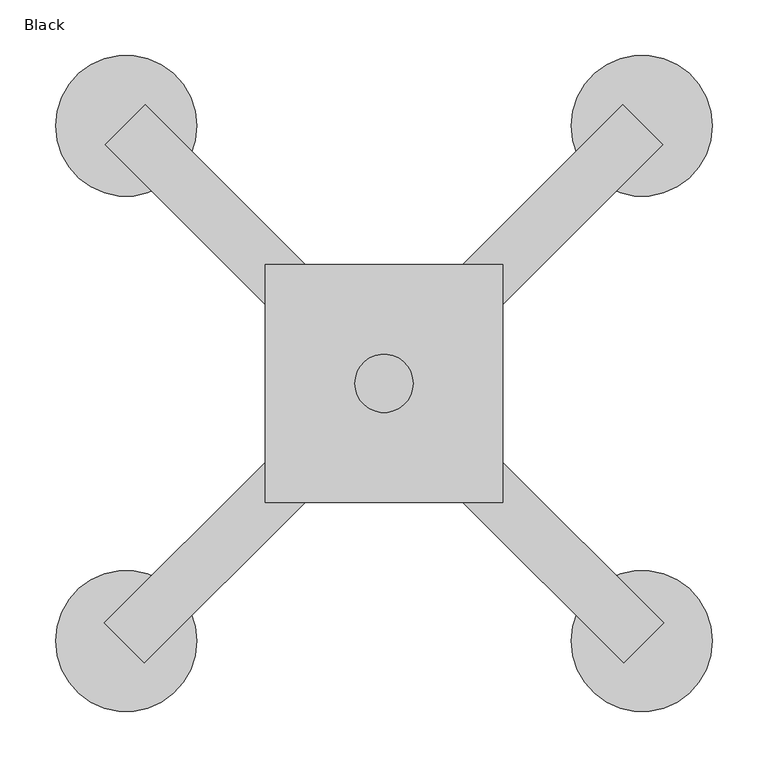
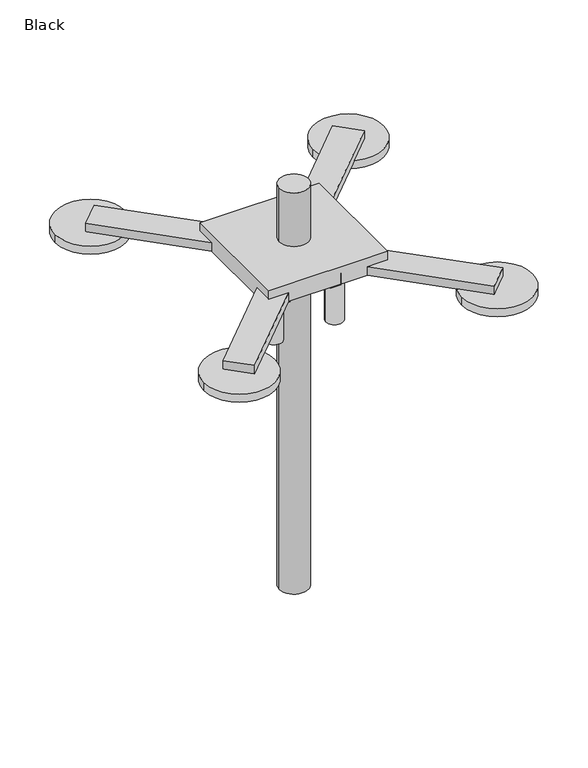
"""IFC4 building model written with IfcOpenShell, lengths in millimetres: proxy geometry, Vibration_Isolator-Ceiling-Chief-Large_Venue : Black."""

from ifc_helpers import new_model, si_unit, point, frame, frame_2d, origin, origin_with_axes, origin_2d, place, context, project, spatial, polyline, circle_curve, trimmed, segment, composite_curve, outline, extrude, source, transform, mapped, element, save
from ifc_brep_helpers import plane_surface, cylinder_surface, advanced_brep


def black_d4b0cc76(model_context):
    return source(origin(), model_context, "Body", "SolidModel", [
        extrude(outline(composite_curve([segment(trimmed(circle_curve(frame_2d((-54.61, -31.75)), 15.748), [point((-38.862, -31.75))], [point((-70.358, -31.75))], False, "CARTESIAN"), True, "CONTINUOUS"), segment(trimmed(circle_curve(frame_2d((-54.61, -31.75)), 15.748), [point((-70.358, -31.75))], [point((-38.862, -31.75))], False, "CARTESIAN"), True, "CONTINUOUS")], self_intersect=False)), frame((0.0, 0.0, 504.5964), z_axis=(0.0, 0.0, 1.0), x_axis=(1.0, 0.0, 0.0)), (0.0, 0.0, 1.0), 76.7),
        extrude(outline(composite_curve([segment(trimmed(circle_curve(frame_2d((54.61, -31.75)), 15.748), [point((70.358, -31.75))], [point((38.862, -31.75))], False, "CARTESIAN"), True, "CONTINUOUS"), segment(trimmed(circle_curve(frame_2d((54.61, -31.75)), 15.748), [point((38.862, -31.75))], [point((70.358, -31.75))], False, "CARTESIAN"), True, "CONTINUOUS")], self_intersect=False)), frame((0.0, 0.0, 504.5964), z_axis=(0.0, 0.0, 1.0), x_axis=(1.0, 0.0, 0.0)), (0.0, 0.0, 1.0), 76.7),
        extrude(outline(composite_curve([segment(trimmed(circle_curve(frame_2d((0.0, 62.992)), 15.748), [point((15.748, 62.992))], [point((-15.748, 62.992))], False, "CARTESIAN"), True, "CONTINUOUS"), segment(trimmed(circle_curve(frame_2d((0.0, 62.992)), 15.748), [point((-15.748, 62.992))], [point((15.748, 62.992))], False, "CARTESIAN"), True, "CONTINUOUS")], self_intersect=False)), frame((0.0, 0.0, 504.5964), z_axis=(0.0, 0.0, 1.0), x_axis=(1.0, 0.0, 0.0)), (0.0, 0.0, 1.0), 76.7),
        extrude(outline(polyline([(50.8142512, -6.244031), (62.4871689, -6.2876395), (72.0757117, -22.9848674), (55.6338464, -51.2648756), (36.379434, -51.1929436), (30.6362371, -41.1918965), (-30.6362371, -41.1918965), (-36.379434, -51.1929436), (-55.6338464, -51.2648756), (-72.0757117, -22.9848674), (-62.4871689, -6.2876395), (-50.8142512, -6.244031), (-20.1646255, 46.9295057), (-25.9716199, 57.0039659), (-16.3561441, 73.6856983), (16.3561441, 73.6856983), (25.9716199, 57.0039659), (20.1646255, 46.9295057), (50.8142512, -6.244031)]), holes=[composite_curve([segment(trimmed(circle_curve(origin_2d(), 26.162), [point((26.162, 0.0))], [point((-26.162, 0.0))], True, "CARTESIAN"), True, "CONTINUOUS"), segment(trimmed(circle_curve(origin_2d(), 26.162), [point((-26.162, 0.0))], [point((26.162, 0.0))], True, "CARTESIAN"), True, "CONTINUOUS")], self_intersect=False)]), frame((0.0, 0.0, 581.2964), z_axis=(0.0, 0.0, 1.0), x_axis=(1.0, 0.0, 0.0)), (0.0, 0.0, 1.0), 11.0706),
        extrude(outline(composite_curve([segment(trimmed(circle_curve(frame_2d((54.61, -31.75)), 8.89), [point((63.5, -31.75))], [point((45.72, -31.75))], False, "CARTESIAN"), True, "CONTINUOUS"), segment(trimmed(circle_curve(frame_2d((54.61, -31.75)), 8.89), [point((45.72, -31.75))], [point((63.5, -31.75))], False, "CARTESIAN"), True, "CONTINUOUS")], self_intersect=False)), frame((0.0, 0.0, 592.367), z_axis=(0.0, 0.0, 1.0), x_axis=(1.0, 0.0, 0.0)), (0.0, 0.0, 1.0), 35.433),
        extrude(outline(composite_curve([segment(trimmed(circle_curve(frame_2d((-54.61, -31.75)), 8.89), [point((-45.72, -31.75))], [point((-63.5, -31.75))], False, "CARTESIAN"), True, "CONTINUOUS"), segment(trimmed(circle_curve(frame_2d((-54.61, -31.75)), 8.89), [point((-63.5, -31.75))], [point((-45.72, -31.75))], False, "CARTESIAN"), True, "CONTINUOUS")], self_intersect=False)), frame((0.0, 0.0, 592.367), z_axis=(0.0, 0.0, 1.0), x_axis=(1.0, 0.0, 0.0)), (0.0, 0.0, 1.0), 35.433),
        extrude(outline(composite_curve([segment(trimmed(circle_curve(frame_2d((0.0, 62.992)), 8.89), [point((8.89, 62.992))], [point((-8.89, 62.992))], False, "CARTESIAN"), True, "CONTINUOUS"), segment(trimmed(circle_curve(frame_2d((0.0, 62.992)), 8.89), [point((-8.89, 62.992))], [point((8.89, 62.992))], False, "CARTESIAN"), True, "CONTINUOUS")], self_intersect=False)), frame((0.0, 0.0, 592.367), z_axis=(0.0, 0.0, 1.0), x_axis=(1.0, 0.0, 0.0)), (0.0, 0.0, 1.0), 35.433),
        advanced_brep(
        [(266.9349858, -231.902, 612.56), (196.8690142, -231.902, 612.56), (231.902, -231.902, 612.56), (266.9349858, -231.902, 608.3804289), (196.8690142, -231.902, 608.3804289), (243.0084026, -231.902, 608.3804289), (220.7955974, -231.902, 608.3804289), (243.0084026, -231.902, 599.86), (220.7955974, -231.902, 599.86), (231.902, -231.902, 599.86)],
        [
            (0, 1, circle_curve(frame((231.902, -231.902, 612.56), z_axis=(0.0, 0.0, 1.0), x_axis=(-1.0, 0.0, 0.0)), 35.0329858)),
            (1, 2),
            (2, 0),
            (1, 0, circle_curve(frame((231.902, -231.902, 612.56), z_axis=(0.0, 0.0, 1.0), x_axis=(-1.0, 0.0, 0.0)), 35.0329858)),
            (3, 4, circle_curve(frame((231.902, -231.902, 608.3804289), z_axis=(0.0, 0.0, 1.0), x_axis=(-1.0, 0.0, 0.0)), 35.0329858)),
            (4, 1),
            (0, 3),
            (4, 3, circle_curve(frame((231.902, -231.902, 608.3804289), z_axis=(0.0, 0.0, 1.0), x_axis=(-1.0, 0.0, 0.0)), 35.0329858)),
            (5, 6, circle_curve(frame((231.902, -231.902, 608.3804289), z_axis=(0.0, 0.0, 1.0), x_axis=(-1.0, 0.0, 0.0)), 11.1064026)),
            (6, 4),
            (3, 5),
            (6, 5, circle_curve(frame((231.902, -231.902, 608.3804289), z_axis=(0.0, 0.0, 1.0), x_axis=(-1.0, 0.0, 0.0)), 11.1064026)),
            (7, 8, circle_curve(frame((231.902, -231.902, 599.86), z_axis=(0.0, 0.0, 1.0), x_axis=(-1.0, 0.0, 0.0)), 11.1064026)),
            (8, 6),
            (5, 7),
            (8, 7, circle_curve(frame((231.902, -231.902, 599.86), z_axis=(0.0, 0.0, 1.0), x_axis=(-1.0, 0.0, 0.0)), 11.1064026)),
            (9, 8),
            (7, 9),
        ],
        [
            plane_surface(frame((231.902, -231.902, 612.56), z_axis=(0.0, 0.0, 1.0), x_axis=(-1.0, 0.0, 0.0))),
            cylinder_surface(frame((231.902, -231.902, 599.86), z_axis=(0.0, 0.0, -1.0), x_axis=(-1.0, 0.0, 0.0)), 35.0329858),
            plane_surface(frame((231.902, -231.902, 608.3804289), z_axis=(0.0, 0.0, -1.0), x_axis=(-1.0, 0.0, 0.0))),
            cylinder_surface(frame((231.902, -231.902, 599.86), z_axis=(0.0, 0.0, -1.0), x_axis=(-1.0, 0.0, 0.0)), 11.1064026),
            plane_surface(frame((231.902, -231.902, 599.86), z_axis=(0.0, 0.0, -1.0), x_axis=(-1.0, 0.0, 0.0))),
        ],
        [
            (0, [[1, 2, 3]]),
            (0, [[4, -3, -2]]),
            (1, [[5, 6, -1, 7]]),
            (1, [[8, -7, -4, -6]]),
            (2, [[9, 10, -5, 11]]),
            (2, [[12, -11, -8, -10]]),
            (3, [[13, 14, -9, 15]]),
            (3, [[16, -15, -12, -14]]),
            (4, [[17, -13, 18]]),
            (4, [[-18, -16, -17]]),
        ],
    ),
        advanced_brep(
        [(-231.902, -231.902, 612.56), (-196.8690142, -231.902, 612.56), (-266.9349858, -231.902, 612.56), (-196.8690142, -231.902, 608.3804289), (-266.9349858, -231.902, 608.3804289), (-220.7955974, -231.902, 608.3804289), (-243.0084026, -231.902, 608.3804289), (-220.7955974, -231.902, 599.86), (-243.0084026, -231.902, 599.86), (-231.902, -231.902, 599.86)],
        [
            (0, 1),
            (1, 2, circle_curve(frame((-231.902, -231.902, 612.56), z_axis=(0.0, 0.0, 1.0), x_axis=(1.0, 0.0, 0.0)), 35.0329858)),
            (2, 0),
            (2, 1, circle_curve(frame((-231.902, -231.902, 612.56), z_axis=(0.0, 0.0, 1.0), x_axis=(1.0, 0.0, 0.0)), 35.0329858)),
            (1, 3),
            (3, 4, circle_curve(frame((-231.902, -231.902, 608.3804289), z_axis=(0.0, 0.0, 1.0), x_axis=(1.0, 0.0, 0.0)), 35.0329858)),
            (4, 2),
            (4, 3, circle_curve(frame((-231.902, -231.902, 608.3804289), z_axis=(0.0, 0.0, 1.0), x_axis=(1.0, 0.0, 0.0)), 35.0329858)),
            (3, 5),
            (5, 6, circle_curve(frame((-231.902, -231.902, 608.3804289), z_axis=(0.0, 0.0, 1.0), x_axis=(1.0, 0.0, 0.0)), 11.1064026)),
            (6, 4),
            (6, 5, circle_curve(frame((-231.902, -231.902, 608.3804289), z_axis=(0.0, 0.0, 1.0), x_axis=(1.0, 0.0, 0.0)), 11.1064026)),
            (5, 7),
            (7, 8, circle_curve(frame((-231.902, -231.902, 599.86), z_axis=(0.0, 0.0, 1.0), x_axis=(1.0, 0.0, 0.0)), 11.1064026)),
            (8, 6),
            (8, 7, circle_curve(frame((-231.902, -231.902, 599.86), z_axis=(0.0, 0.0, 1.0), x_axis=(1.0, 0.0, 0.0)), 11.1064026)),
            (7, 9),
            (9, 8),
        ],
        [
            plane_surface(frame((-231.902, -231.902, 612.56), z_axis=(0.0, 0.0, 1.0), x_axis=(1.0, 0.0, 0.0))),
            cylinder_surface(frame((-231.902, -231.902, 599.86), z_axis=(0.0, 0.0, 1.0), x_axis=(1.0, 0.0, 0.0)), 35.0329858),
            plane_surface(frame((-231.902, -231.902, 608.3804289), z_axis=(0.0, 0.0, -1.0), x_axis=(1.0, 0.0, 0.0))),
            cylinder_surface(frame((-231.902, -231.902, 599.86), z_axis=(0.0, 0.0, 1.0), x_axis=(1.0, 0.0, 0.0)), 11.1064026),
            plane_surface(frame((-231.902, -231.902, 599.86), z_axis=(0.0, 0.0, -1.0), x_axis=(1.0, 0.0, 0.0))),
        ],
        [
            (0, [[1, 2, 3]]),
            (0, [[-3, 4, -1]]),
            (1, [[-2, 5, 6, 7]]),
            (1, [[-4, -7, 8, -5]]),
            (2, [[-6, 9, 10, 11]]),
            (2, [[-8, -11, 12, -9]]),
            (3, [[-10, 13, 14, 15]]),
            (3, [[-12, -15, 16, -13]]),
            (4, [[-14, 17, 18]]),
            (4, [[-16, -18, -17]]),
        ],
    ),
        advanced_brep(
        [(231.902, 231.902, 612.56), (196.8690142, 231.902, 612.56), (266.9349858, 231.902, 612.56), (196.8690142, 231.902, 608.3804289), (266.9349858, 231.902, 608.3804289), (220.7955974, 231.902, 608.3804289), (243.0084026, 231.902, 608.3804289), (220.7955974, 231.902, 599.86), (243.0084026, 231.902, 599.86), (231.902, 231.902, 599.86)],
        [
            (0, 1),
            (1, 2, circle_curve(frame((231.902, 231.902, 612.56), z_axis=(0.0, 0.0, 1.0), x_axis=(-1.0, 0.0, 0.0)), 35.0329858)),
            (2, 0),
            (2, 1, circle_curve(frame((231.902, 231.902, 612.56), z_axis=(0.0, 0.0, 1.0), x_axis=(-1.0, 0.0, 0.0)), 35.0329858)),
            (1, 3),
            (3, 4, circle_curve(frame((231.902, 231.902, 608.3804289), z_axis=(0.0, 0.0, 1.0), x_axis=(-1.0, 0.0, 0.0)), 35.0329858)),
            (4, 2),
            (4, 3, circle_curve(frame((231.902, 231.902, 608.3804289), z_axis=(0.0, 0.0, 1.0), x_axis=(-1.0, 0.0, 0.0)), 35.0329858)),
            (3, 5),
            (5, 6, circle_curve(frame((231.902, 231.902, 608.3804289), z_axis=(0.0, 0.0, 1.0), x_axis=(-1.0, 0.0, 0.0)), 11.1064026)),
            (6, 4),
            (6, 5, circle_curve(frame((231.902, 231.902, 608.3804289), z_axis=(0.0, 0.0, 1.0), x_axis=(-1.0, 0.0, 0.0)), 11.1064026)),
            (5, 7),
            (7, 8, circle_curve(frame((231.902, 231.902, 599.86), z_axis=(0.0, 0.0, 1.0), x_axis=(-1.0, 0.0, 0.0)), 11.1064026)),
            (8, 6),
            (8, 7, circle_curve(frame((231.902, 231.902, 599.86), z_axis=(0.0, 0.0, 1.0), x_axis=(-1.0, 0.0, 0.0)), 11.1064026)),
            (7, 9),
            (9, 8),
        ],
        [
            plane_surface(frame((231.902, 231.902, 612.56), z_axis=(0.0, 0.0, 1.0), x_axis=(-1.0, 0.0, 0.0))),
            cylinder_surface(frame((231.902, 231.902, 599.86), z_axis=(0.0, 0.0, 1.0), x_axis=(-1.0, 0.0, 0.0)), 35.0329858),
            plane_surface(frame((231.902, 231.902, 608.3804289), z_axis=(0.0, 0.0, -1.0), x_axis=(-1.0, 0.0, 0.0))),
            cylinder_surface(frame((231.902, 231.902, 599.86), z_axis=(0.0, 0.0, 1.0), x_axis=(-1.0, 0.0, 0.0)), 11.1064026),
            plane_surface(frame((231.902, 231.902, 599.86), z_axis=(0.0, 0.0, -1.0), x_axis=(-1.0, 0.0, 0.0))),
        ],
        [
            (0, [[1, 2, 3]]),
            (0, [[-3, 4, -1]]),
            (1, [[-2, 5, 6, 7]]),
            (1, [[-4, -7, 8, -5]]),
            (2, [[-6, 9, 10, 11]]),
            (2, [[-8, -11, 12, -9]]),
            (3, [[-10, 13, 14, 15]]),
            (3, [[-12, -15, 16, -13]]),
            (4, [[-14, 17, 18]]),
            (4, [[-16, -18, -17]]),
        ],
    ),
        advanced_brep(
        [(-266.9349858, 231.902, 612.56), (-196.8690142, 231.902, 612.56), (-231.902, 231.902, 612.56), (-266.9349858, 231.902, 608.3804289), (-196.8690142, 231.902, 608.3804289), (-243.0084026, 231.902, 608.3804289), (-220.7955974, 231.902, 608.3804289), (-243.0084026, 231.902, 599.86), (-220.7955974, 231.902, 599.86), (-231.902, 231.902, 599.86)],
        [
            (0, 1, circle_curve(frame((-231.902, 231.902, 612.56), z_axis=(0.0, 0.0, 1.0), x_axis=(1.0, 0.0, 0.0)), 35.0329858)),
            (1, 2),
            (2, 0),
            (1, 0, circle_curve(frame((-231.902, 231.902, 612.56), z_axis=(0.0, 0.0, 1.0), x_axis=(1.0, 0.0, 0.0)), 35.0329858)),
            (3, 4, circle_curve(frame((-231.902, 231.902, 608.3804289), z_axis=(0.0, 0.0, 1.0), x_axis=(1.0, 0.0, 0.0)), 35.0329858)),
            (4, 1),
            (0, 3),
            (4, 3, circle_curve(frame((-231.902, 231.902, 608.3804289), z_axis=(0.0, 0.0, 1.0), x_axis=(1.0, 0.0, 0.0)), 35.0329858)),
            (5, 6, circle_curve(frame((-231.902, 231.902, 608.3804289), z_axis=(0.0, 0.0, 1.0), x_axis=(1.0, 0.0, 0.0)), 11.1064026)),
            (6, 4),
            (3, 5),
            (6, 5, circle_curve(frame((-231.902, 231.902, 608.3804289), z_axis=(0.0, 0.0, 1.0), x_axis=(1.0, 0.0, 0.0)), 11.1064026)),
            (7, 8, circle_curve(frame((-231.902, 231.902, 599.86), z_axis=(0.0, 0.0, 1.0), x_axis=(1.0, 0.0, 0.0)), 11.1064026)),
            (8, 6),
            (5, 7),
            (8, 7, circle_curve(frame((-231.902, 231.902, 599.86), z_axis=(0.0, 0.0, 1.0), x_axis=(1.0, 0.0, 0.0)), 11.1064026)),
            (9, 8),
            (7, 9),
        ],
        [
            plane_surface(frame((-231.902, 231.902, 612.56), z_axis=(0.0, 0.0, 1.0), x_axis=(1.0, 0.0, 0.0))),
            cylinder_surface(frame((-231.902, 231.902, 599.86), z_axis=(0.0, 0.0, -1.0), x_axis=(1.0, 0.0, 0.0)), 35.0329858),
            plane_surface(frame((-231.902, 231.902, 608.3804289), z_axis=(0.0, 0.0, -1.0), x_axis=(1.0, 0.0, 0.0))),
            cylinder_surface(frame((-231.902, 231.902, 599.86), z_axis=(0.0, 0.0, -1.0), x_axis=(1.0, 0.0, 0.0)), 11.1064026),
            plane_surface(frame((-231.902, 231.902, 599.86), z_axis=(0.0, 0.0, -1.0), x_axis=(1.0, 0.0, 0.0))),
        ],
        [
            (0, [[1, 2, 3]]),
            (0, [[4, -3, -2]]),
            (1, [[5, 6, -1, 7]]),
            (1, [[8, -7, -4, -6]]),
            (2, [[9, 10, -5, 11]]),
            (2, [[12, -11, -8, -10]]),
            (3, [[13, 14, -9, 15]]),
            (3, [[16, -15, -12, -14]]),
            (4, [[17, -13, 18]]),
            (4, [[-18, -16, -17]]),
        ],
    ),
        extrude(outline(composite_curve([segment(trimmed(circle_curve(frame_2d((-231.902, 231.902)), 63.5), [point((-168.402, 231.902))], [point((-295.402, 231.902))], False, "CARTESIAN"), True, "CONTINUOUS"), segment(trimmed(circle_curve(frame_2d((-231.902, 231.902)), 63.5), [point((-295.402, 231.902))], [point((-168.402, 231.902))], False, "CARTESIAN"), True, "CONTINUOUS")], self_intersect=False)), frame((0.0, 0.0, 612.56), z_axis=(0.0, 0.0, 1.0), x_axis=(1.0, 0.0, 0.0)), (0.0, 0.0, 1.0), 15.24),
        extrude(outline(composite_curve([segment(trimmed(circle_curve(frame_2d((231.902, 231.902)), 63.5), [point((295.402, 231.902))], [point((168.402, 231.902))], False, "CARTESIAN"), True, "CONTINUOUS"), segment(trimmed(circle_curve(frame_2d((231.902, 231.902)), 63.5), [point((168.402, 231.902))], [point((295.402, 231.902))], False, "CARTESIAN"), True, "CONTINUOUS")], self_intersect=False)), frame((0.0, 0.0, 612.56), z_axis=(0.0, 0.0, 1.0), x_axis=(1.0, 0.0, 0.0)), (0.0, 0.0, 1.0), 15.24),
        extrude(outline(composite_curve([segment(trimmed(circle_curve(frame_2d((-231.902, -231.902)), 63.5), [point((-168.402, -231.902))], [point((-295.402, -231.902))], False, "CARTESIAN"), True, "CONTINUOUS"), segment(trimmed(circle_curve(frame_2d((-231.902, -231.902)), 63.5), [point((-295.402, -231.902))], [point((-168.402, -231.902))], False, "CARTESIAN"), True, "CONTINUOUS")], self_intersect=False)), frame((0.0, 0.0, 612.56), z_axis=(0.0, 0.0, 1.0), x_axis=(1.0, 0.0, 0.0)), (0.0, 0.0, 1.0), 15.24),
        extrude(outline(composite_curve([segment(trimmed(circle_curve(frame_2d((231.902, -231.902)), 63.5), [point((295.402, -231.902))], [point((168.402, -231.902))], False, "CARTESIAN"), True, "CONTINUOUS"), segment(trimmed(circle_curve(frame_2d((231.902, -231.902)), 63.5), [point((168.402, -231.902))], [point((295.402, -231.902))], False, "CARTESIAN"), True, "CONTINUOUS")], self_intersect=False)), frame((0.0, 0.0, 612.56), z_axis=(0.0, 0.0, 1.0), x_axis=(1.0, 0.0, 0.0)), (0.0, 0.0, 1.0), 15.24),
        extrude(outline(polyline([(-215.5261469, -251.4471714), (-251.4471714, -215.5261469), (-106.9467, -71.0256755), (-106.9467, -106.9467), (-71.0256755, -106.9467), (-215.5261469, -251.4471714)])), frame((0.0, 0.0, 627.8), z_axis=(0.0, 0.0, 1.0), x_axis=(1.0, 0.0, 0.0)), (0.0, 0.0, 1.0), 16.3),
        extrude(outline(polyline([(-214.7097735, 250.6307979), (-71.0256755, 106.9467), (-106.9467, 106.9467), (-106.9467, 71.0256755), (-250.6307979, 214.7097735), (-214.7097735, 250.6307979)])), frame((0.0, 0.0, 627.8), z_axis=(0.0, 0.0, 1.0), x_axis=(1.0, 0.0, 0.0)), (0.0, 0.0, 1.0), 16.3),
        extrude(outline(polyline([(250.6307979, 214.7097735), (106.9467, 71.0256755), (106.9467, 106.9467), (71.0256755, 106.9467), (214.7097735, 250.6307979), (250.6307979, 214.7097735)])), frame((0.0, 0.0, 627.8), z_axis=(0.0, 0.0, 1.0), x_axis=(1.0, 0.0, 0.0)), (0.0, 0.0, 1.0), 16.3),
        extrude(outline(polyline([(215.5261469, -251.4471714), (71.0256755, -106.9467), (106.9467, -106.9467), (106.9467, -71.0256755), (251.4471714, -215.5261469), (215.5261469, -251.4471714)])), frame((0.0, 0.0, 627.8), z_axis=(0.0, 0.0, 1.0), x_axis=(1.0, 0.0, 0.0)), (0.0, 0.0, 1.0), 16.3),
        extrude(outline(polyline([(106.9467, -106.9467), (-106.9467, -106.9467), (-106.9467, 106.9467), (106.9467, 106.9467), (106.9467, -106.9467)]), holes=[composite_curve([segment(trimmed(circle_curve(origin_2d(), 26.162), [point((-26.162, 0.0))], [point((26.162, 0.0))], True, "CARTESIAN"), True, "CONTINUOUS"), segment(trimmed(circle_curve(origin_2d(), 26.162), [point((26.162, 0.0))], [point((-26.162, 0.0))], True, "CARTESIAN"), True, "CONTINUOUS")], self_intersect=False)]), frame((0.0, 0.0, 627.8), z_axis=(0.0, 0.0, 1.0), x_axis=(1.0, 0.0, 0.0)), (0.0, 0.0, 1.0), 32.6),
        extrude(outline(composite_curve([segment(trimmed(circle_curve(origin_2d(), 26.162), [point((-26.162, 0.0))], [point((26.162, 0.0))], False, "CARTESIAN"), True, "CONTINUOUS"), segment(trimmed(circle_curve(origin_2d(), 26.162), [point((26.162, 0.0))], [point((-26.162, 0.0))], False, "CARTESIAN"), True, "CONTINUOUS")], self_intersect=False)), frame((0.0, 0.0, 627.8), z_axis=(0.0, 0.0, 1.0), x_axis=(1.0, 0.0, 0.0)), (0.0, 0.0, 1.0), 134.2),
        extrude(outline(composite_curve([segment(trimmed(circle_curve(origin_2d(), 26.162), [point((-26.162, 0.0))], [point((26.162, 0.0))], False, "CARTESIAN"), True, "CONTINUOUS"), segment(trimmed(circle_curve(origin_2d(), 26.162), [point((26.162, 0.0))], [point((-26.162, 0.0))], False, "CARTESIAN"), True, "CONTINUOUS")], self_intersect=False)), origin_with_axes(), (0.0, 0.0, 1.0), 592.367),
    ])


if __name__ == "__main__":
    model = new_model("IFC4")
    model_context = context("Model", 3, world=origin())
    ifc_project = project(units=[si_unit("LENGTHUNIT", "METRE", prefix="MILLI")], contexts=[model_context])
    site = spatial("IfcSite", under=ifc_project)
    building = spatial("IfcBuilding", under=site)
    placement = place(None, origin())
    black_shape = black_d4b0cc76(model_context)
    element("IfcBuildingElementProxy", 1, Name="Vibration_Isolator-Ceiling-Chief-Large_Venue : Black", ObjectType="Vibration_Isolator-Ceiling-Chief-Large_Venue : Black", at=placement, inside=building, context=model_context, shape_type="MappedRepresentation", body=[
        mapped(black_shape, transform((0.0, 0.0, 0.0), x_axis=(1.0, 0.0, 0.0), y_axis=(0.0, 1.0, 0.0), z_axis=(0.0, 0.0, 1.0))),
    ])
    save(model, "model.ifc")
